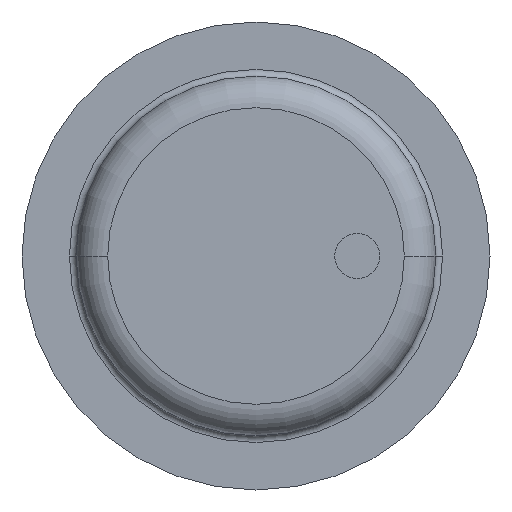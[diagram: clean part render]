
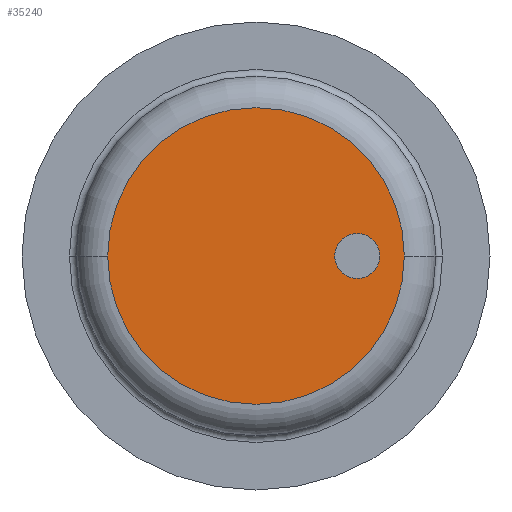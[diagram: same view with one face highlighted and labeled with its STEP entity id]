
A CAD part, front view. The second image highlights one B-rep face of the part: STEP entity #35240.
In plain terms, the highlighted planar face has unit normal (0, -1, 0).
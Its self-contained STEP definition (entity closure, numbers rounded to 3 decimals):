
#34740=CARTESIAN_POINT('',(-0.93,-434.,0.));
#34750=VERTEX_POINT('',#34740);
#34850=CARTESIAN_POINT('',(130.93,-434.,0.));
#34860=VERTEX_POINT('',#34850);
#34890=CARTESIAN_POINT('',(65.,-434.,0.));
#34900=DIRECTION('',(0.,1.,0.));
#34910=DIRECTION('',(1.,0.,0.));
#34920=AXIS2_PLACEMENT_3D('',#34890,#34900,#34910);
#34930=CIRCLE('',#34920,65.93);
#34940=EDGE_CURVE('',#34750,#34860,#34930,.T.);
#34990=CARTESIAN_POINT('',(97.965,-434.,0.)
);
#35000=DIRECTION('',(0.,-1.,0.));
#35010=DIRECTION('',(-1.,0.,0.));
#35020=AXIS2_PLACEMENT_3D('',#34990,#35000,#35010);
#35030=PLANE('',#35020);
#35040=CARTESIAN_POINT('',(110.,-434.,0.));
#35050=DIRECTION('',(0.,1.,0.));
#35060=DIRECTION('',(1.,0.,0.));
#35070=AXIS2_PLACEMENT_3D('',#35040,#35050,#35060);
#35080=CIRCLE('',#35070,10.);
#35090=CARTESIAN_POINT('',(120.,-434.,0.));
#35100=VERTEX_POINT('',#35090);
#35110=CARTESIAN_POINT('',(100.,-434.,0.));
#35120=VERTEX_POINT('',#35110);
#35130=EDGE_CURVE('',#35100,#35120,#35080,.T.);
#35140=ORIENTED_EDGE('',*,*,#35130,.T.);
#35150=EDGE_CURVE('',#35120,#35100,#35080,.T.);
#35160=ORIENTED_EDGE('',*,*,#35150,.T.);
#35170=EDGE_LOOP('',(#35160,#35140));
#35180=FACE_BOUND('',#35170,.T.);
#35190=EDGE_CURVE('',#34860,#34750,#34930,.T.);
#35200=ORIENTED_EDGE('',*,*,#35190,.F.);
#35210=ORIENTED_EDGE('',*,*,#34940,.F.);
#35220=EDGE_LOOP('',(#35210,#35200));
#35230=FACE_OUTER_BOUND('',#35220,.T.);
#35240=ADVANCED_FACE('',(#35180,#35230),#35030,.T.);
